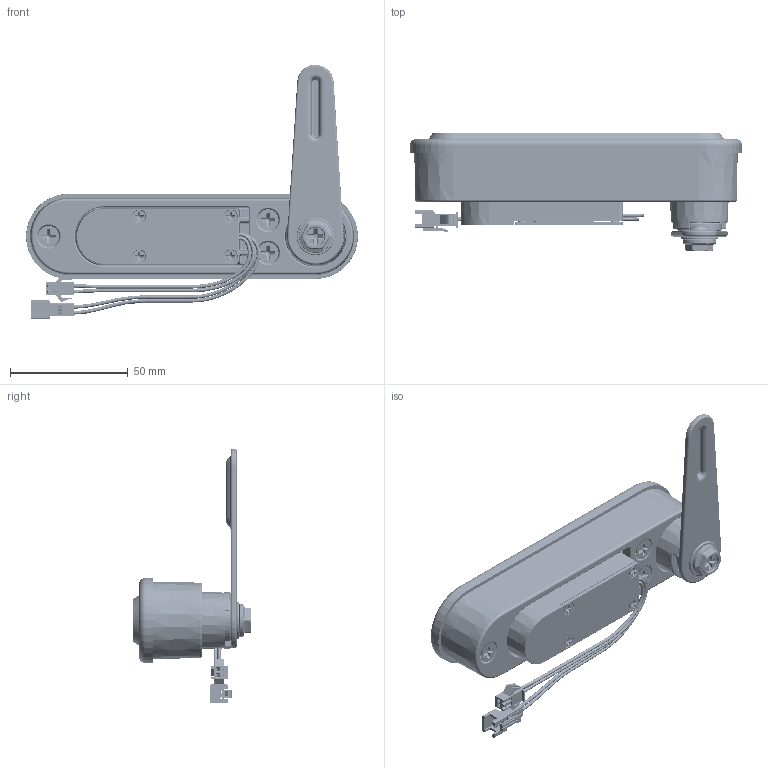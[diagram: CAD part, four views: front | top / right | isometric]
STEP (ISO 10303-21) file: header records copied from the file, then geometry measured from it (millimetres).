
FILE_DESCRIPTION((''),'2;1');
FILE_NAME('SM828-09_ASM','2025-05-16T17:50:30',('PRIME'),(''),'CREO PARAMETRIC BY PTC INC, 2023073','CREO PARAMETRIC BY PTC INC, 2023073','');
FILE_SCHEMA(('CONFIG_CONTROL_DESIGN','SHAPE_APPEARANCE_LAYERS_GROUPS'));
Products named in the file (29): SM828-09-02; _SM828-09000; _SM828-090002; _02-SM828-09000; _SM828-0900; _SM828-09001; _SM828-09000_ASM; 02-SM828-0900; _SM828-090011; M3-828-8-400; M6-SM828-0900; SM828-000; _828-90001; 0; SM2_54-2P-00; SM2_54-2P-0004; SM2_54-2P-0005; SM2_54-2P-000_ASM; SM828-0_ASM; SM828-09_ASM
Assembly tree (37 placements, depth 4):
  SM828-09_ASM
    SM828-09-02
    _SM828-09000
    _SM828-090002
    _02-SM828-09000
    _SM828-0900
    _SM828-09000_ASM
      _SM828-0900
      _SM828-0900
      _SM828-0900
      _SM828-09000  x2
      _SM828-0900  x2
      _SM828-09001
    02-SM828-0900
    _SM828-090011
    M3-828-8-400  x4
    _SM828-09001
    _SM828-0900
    _SM828-0900
    M6-SM828-0900
    SM828-000
    _828-90001  x3
    SM828-0_ASM
      0
      SM2_54-2P-000_ASM
        SM2_54-2P-00
        SM2_54-2P-00
        SM2_54-2P-0004  x2
        SM2_54-2P-0005  x2
Bounding box: 141.21 x 50.35 x 108.25 mm (x, y, z)
Volume: 88848.4 mm3; surface area: 91204.1 mm2
Topology: 46 solids, 46 shells, 4327 faces, 10908 edges, 6714 vertices
Faces by surface type: cylinder 1680, plane 1249, bspline 778, torus 365, cone 134, sphere 121
Entity records: 203523 total; most frequent: CARTESIAN_POINT 85156, ORIENTED_EDGE 17926, DIRECTION 15174, EDGE_CURVE 8963, PRESENTATION_STYLE_ASSIGNMENT 7921, STYLED_ITEM 7770, AXIS2_PLACEMENT_3D 5620, VERTEX_POINT 5505
